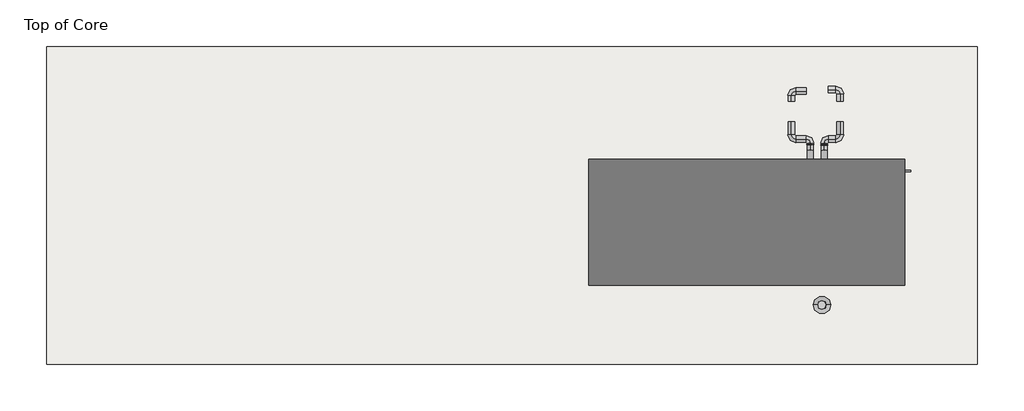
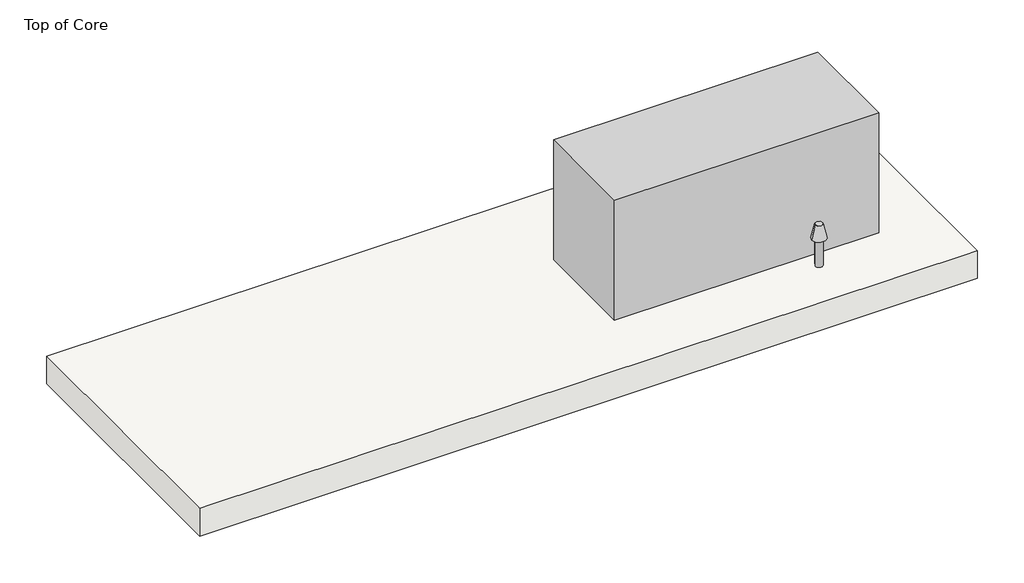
# One storey, incomplete: 12 pipe segments, 8 pipe fittings, 1 flow terminal, 1 proxy, 1 roof.
"""IFC4 building model written with IfcOpenShell, lengths in millimetres."""

from ifc_helpers import new_model, si_unit, point, frame, frame_2d, origin, place, context, project, spatial, polyline, circle_curve, trimmed, segment, composite_curve, outline, extrude, transform, mapped, element, save
from components import proxy_20_25_tons_50dc316f, vent_termination_vent_termination_79547288, pipe_elbow_standard_764eecca, pipe_straight_coupling_standard_a036b704

model = new_model("IFC4")

# Units and contexts
model_context = context("Model", 3, world=origin())
ifc_project = project(units=[si_unit("LENGTHUNIT", "METRE", prefix="MILLI")], contexts=[model_context])

# Site, building, storey
site = spatial("IfcSite", under=ifc_project)
building = spatial("IfcBuilding", under=site)
storey = spatial("IfcBuildingStorey", under=building, Name="Top of Core", Elevation=15849.6)

# Proxy
placement = place(None, origin())
proxy_20_25_tons_shape = proxy_20_25_tons_50dc316f(model_context)
element("IfcBuildingElementProxy", 1, Name="20-55 Tons Air Cooled Scroll Chiller : 20-25 Tons", ObjectType="20-55 Tons Air Cooled Scroll Chiller : 20-25 Tons", at=placement, inside=storey, context=model_context, shape_type="MappedRepresentation", body=[
    mapped(proxy_20_25_tons_shape, transform((2673.9890973, 9838.159643, 16154.4), x_axis=(-1.0, 0.0, 0.0), y_axis=(0.0, -1.0, 0.0), z_axis=(0.0, 0.0, 1.0))),
])

# Flow terminal
vent_termination_vent_termination_shape = vent_termination_vent_termination_79547288(model_context)
element("IfcFlowTerminal", 2, ObjectType="Vent Termination : Vent Termination", at=placement, inside=storey, context=model_context, shape_type="MappedRepresentation", body=[
    mapped(vent_termination_vent_termination_shape, transform((1956.0688796, 9666.27566, 16154.4), x_axis=(1.0, 0.0, 0.0), y_axis=(0.0, 1.0, 0.0), z_axis=(0.0, 0.0, 1.0))),
])

# Pipe fittings
pipe_elbow_standard_shape = pipe_elbow_standard_764eecca(model_context)
element("IfcPipeFitting", 3, ObjectType="Pipe Elbow1 : Standard 2", at=placement, inside=storey, context=model_context, shape_type="MappedRepresentation", body=[
    mapped(pipe_elbow_standard_shape, transform((1690.9854288, 11105.746643, 16297.275), x_axis=(0.0, -1.0, 0.0), y_axis=(1.0, 0.0, 0.0), z_axis=(0.0, 0.0, 1.0))),
])
element("IfcPipeFitting", 4, ObjectType="Pipe Elbow1 : Standard 2", at=placement, inside=storey, context=model_context, shape_type="MappedRepresentation", body=[
    mapped(pipe_elbow_standard_shape, transform((1854.8390973, 11105.746643, 16297.275), x_axis=(0.0, 1.0, 0.0), y_axis=(-1.0, 0.0, 0.0), z_axis=(0.0, 0.0, 1.0))),
])
element("IfcPipeFitting", 5, ObjectType="Pipe Elbow1 : Standard 2", at=placement, inside=storey, context=model_context, shape_type="MappedRepresentation", body=[
    mapped(pipe_elbow_standard_shape, transform((2113.6561347, 11105.746643, 16297.275), x_axis=(0.0, -1.0, 0.0), y_axis=(-1.0, 0.0, 0.0), z_axis=(0.0, 0.0, -1.0))),
])
element("IfcPipeFitting", 6, ObjectType="Pipe Elbow1 : Standard 2", at=placement, inside=storey, context=model_context, shape_type="MappedRepresentation", body=[
    mapped(pipe_elbow_standard_shape, transform((1975.4890973, 11105.746643, 16297.275), x_axis=(0.0, 1.0, 0.0), y_axis=(1.0, 0.0, 0.0), z_axis=(0.0, 0.0, -1.0))),
])
element("IfcPipeFitting", 7, ObjectType="Pipe Elbow1 : Standard 2", at=placement, inside=storey, context=model_context, shape_type="MappedRepresentation", body=[
    mapped(pipe_elbow_standard_shape, transform((1690.9854288, 11521.5729631, 16297.275), x_axis=(0.0, 1.0, 0.0), y_axis=(1.0, 0.0, 0.0), z_axis=(0.0, 0.0, -1.0))),
])
element("IfcPipeFitting", 8, ObjectType="Pipe Elbow1 : Standard 2", at=placement, inside=storey, context=model_context, shape_type="MappedRepresentation", body=[
    mapped(pipe_elbow_standard_shape, transform((2113.6561347, 11535.3697518, 16297.275), x_axis=(0.0, 1.0, 0.0), y_axis=(-1.0, 0.0, 0.0), z_axis=(0.0, 0.0, 1.0))),
])
pipe_straight_coupling_standard_shape = pipe_straight_coupling_standard_a036b704(model_context)
element("IfcPipeFitting", 9, ObjectType="Pipe Straight Coupling : Standard", at=placement, inside=storey, context=model_context, shape_type="MappedRepresentation", body=[
    mapped(pipe_straight_coupling_standard_shape, transform((1854.8390973, 11057.359643, 16297.275), x_axis=(0.0, 1.0, 0.0), y_axis=(-1.0, 0.0, 0.0), z_axis=(0.0, 0.0, 1.0))),
])
element("IfcPipeFitting", 10, ObjectType="Pipe Straight Coupling : Standard", at=placement, inside=storey, context=model_context, shape_type="MappedRepresentation", body=[
    mapped(pipe_straight_coupling_standard_shape, transform((1975.4890973, 11054.946643, 16297.275), x_axis=(0.0, -1.0, 0.0), y_axis=(1.0, 0.0, 0.0), z_axis=(0.0, 0.0, 1.0))),
])

# Pipe segments
element("IfcPipeSegment", 11, ObjectType="Standard", at=placement, inside=storey, context=model_context, shape_type="SweptSolid", body=[
    extrude(outline(composite_curve([segment(trimmed(circle_curve(frame_2d((16297.275, 1854.8390973)), 26.9875), [point((16297.275, 1827.8515973))], [point((16270.2875, 1854.8390973))], False, "CARTESIAN"), True, "CONTINUOUS"), segment(trimmed(circle_curve(frame_2d((16297.275, 1854.8390973)), 26.9875), [point((16270.2875, 1854.8390973))], [point((16297.275, 1881.8265973))], False, "CARTESIAN"), True, "CONTINUOUS"), segment(trimmed(circle_curve(frame_2d((16297.275, 1854.8390973)), 26.9875), [point((16297.275, 1881.8265973))], [point((16324.2625, 1854.8390973))], False, "CARTESIAN"), True, "CONTINUOUS"), segment(trimmed(circle_curve(frame_2d((16297.275, 1854.8390973)), 26.9875), [point((16324.2625, 1854.8390973))], [point((16297.275, 1827.8515973))], False, "CARTESIAN"), True, "CONTINUOUS")], self_intersect=False)), frame((0.0, 11006.559643, 0.0), z_axis=(0.0, 1.0, 0.0), x_axis=(0.0, 0.0, 1.0)), (0.0, 0.0, 1.0), 48.387),
])
element("IfcPipeSegment", 12, ObjectType="Standard", at=placement, inside=storey, context=model_context, shape_type="SweptSolid", body=[
    extrude(outline(composite_curve([segment(trimmed(circle_curve(frame_2d((16297.275, 1690.9854288)), 26.9875), [point((16297.275, 1663.9979288))], [point((16270.2875, 1690.9854288))], False, "CARTESIAN"), True, "CONTINUOUS"), segment(trimmed(circle_curve(frame_2d((16297.275, 1690.9854288)), 26.9875), [point((16270.2875, 1690.9854288))], [point((16297.275, 1717.9729288))], False, "CARTESIAN"), True, "CONTINUOUS"), segment(trimmed(circle_curve(frame_2d((16297.275, 1690.9854288)), 26.9875), [point((16297.275, 1717.9729288))], [point((16324.2625, 1690.9854288))], False, "CARTESIAN"), True, "CONTINUOUS"), segment(trimmed(circle_curve(frame_2d((16297.275, 1690.9854288)), 26.9875), [point((16324.2625, 1690.9854288))], [point((16297.275, 1663.9979288))], False, "CARTESIAN"), True, "CONTINUOUS")], self_intersect=False)), frame((0.0, 11142.259143, 0.0), z_axis=(0.0, 1.0, 0.0), x_axis=(0.0, 0.0, 1.0)), (0.0, 0.0, 1.0), 112.4398519),
])
element("IfcPipeSegment", 13, ObjectType="Standard", at=placement, inside=storey, context=model_context, shape_type="SweptSolid", body=[
    extrude(outline(composite_curve([segment(trimmed(circle_curve(frame_2d((16297.275, 1975.4890973)), 26.9875), [point((16297.275, 2002.4765973))], [point((16324.2625, 1975.4890973))], False, "CARTESIAN"), True, "CONTINUOUS"), segment(trimmed(circle_curve(frame_2d((16297.275, 1975.4890973)), 26.9875), [point((16324.2625, 1975.4890973))], [point((16297.275, 1948.5015973))], False, "CARTESIAN"), True, "CONTINUOUS"), segment(trimmed(circle_curve(frame_2d((16297.275, 1975.4890973)), 26.9875), [point((16297.275, 1948.5015973))], [point((16270.2875, 1975.4890973))], False, "CARTESIAN"), True, "CONTINUOUS"), segment(trimmed(circle_curve(frame_2d((16297.275, 1975.4890973)), 26.9875), [point((16270.2875, 1975.4890973))], [point((16297.275, 2002.4765973))], False, "CARTESIAN"), True, "CONTINUOUS")], self_intersect=False)), frame((0.0, 11057.359643, 0.0), z_axis=(0.0, 1.0, 0.0), x_axis=(0.0, 0.0, 1.0)), (0.0, 0.0, 1.0), 11.8745),
])
element("IfcPipeSegment", 14, ObjectType="Standard", at=placement, inside=storey, context=model_context, shape_type="SweptSolid", body=[
    extrude(outline(composite_curve([segment(trimmed(circle_curve(frame_2d((16297.275, 2113.6561347)), 26.9875), [point((16297.275, 2086.6686347))], [point((16270.2875, 2113.6561347))], False, "CARTESIAN"), True, "CONTINUOUS"), segment(trimmed(circle_curve(frame_2d((16297.275, 2113.6561347)), 26.9875), [point((16270.2875, 2113.6561347))], [point((16297.275, 2140.6436347))], False, "CARTESIAN"), True, "CONTINUOUS"), segment(trimmed(circle_curve(frame_2d((16297.275, 2113.6561347)), 26.9875), [point((16297.275, 2140.6436347))], [point((16324.2625, 2113.6561347))], False, "CARTESIAN"), True, "CONTINUOUS"), segment(trimmed(circle_curve(frame_2d((16297.275, 2113.6561347)), 26.9875), [point((16324.2625, 2113.6561347))], [point((16297.275, 2086.6686347))], False, "CARTESIAN"), True, "CONTINUOUS")], self_intersect=False)), frame((0.0, 11142.259143, 0.0), z_axis=(0.0, 1.0, 0.0), x_axis=(0.0, 0.0, 1.0)), (0.0, 0.0, 1.0), 112.4398519),
])
element("IfcPipeSegment", 15, ObjectType="Standard", at=placement, inside=storey, context=model_context, shape_type="SweptSolid", body=[
    extrude(outline(composite_curve([segment(trimmed(circle_curve(frame_2d((16297.275, 1854.8390973)), 26.9875), [point((16297.275, 1827.8515973))], [point((16270.2875, 1854.8390973))], False, "CARTESIAN"), True, "CONTINUOUS"), segment(trimmed(circle_curve(frame_2d((16297.275, 1854.8390973)), 26.9875), [point((16270.2875, 1854.8390973))], [point((16297.275, 1881.8265973))], False, "CARTESIAN"), True, "CONTINUOUS"), segment(trimmed(circle_curve(frame_2d((16297.275, 1854.8390973)), 26.9875), [point((16297.275, 1881.8265973))], [point((16324.2625, 1854.8390973))], False, "CARTESIAN"), True, "CONTINUOUS"), segment(trimmed(circle_curve(frame_2d((16297.275, 1854.8390973)), 26.9875), [point((16324.2625, 1854.8390973))], [point((16297.275, 1827.8515973))], False, "CARTESIAN"), True, "CONTINUOUS")], self_intersect=False)), frame((0.0, 11059.772643, 0.0), z_axis=(0.0, 1.0, 0.0), x_axis=(0.0, 0.0, 1.0)), (0.0, 0.0, 1.0), 9.4615),
])
element("IfcPipeSegment", 16, ObjectType="Standard", at=placement, inside=storey, context=model_context, shape_type="SweptSolid", body=[
    extrude(outline(composite_curve([segment(trimmed(circle_curve(frame_2d((16297.275, 1975.4890973)), 26.9875), [point((16297.275, 2002.4765973))], [point((16324.2625, 1975.4890973))], False, "CARTESIAN"), True, "CONTINUOUS"), segment(trimmed(circle_curve(frame_2d((16297.275, 1975.4890973)), 26.9875), [point((16324.2625, 1975.4890973))], [point((16297.275, 1948.5015973))], False, "CARTESIAN"), True, "CONTINUOUS"), segment(trimmed(circle_curve(frame_2d((16297.275, 1975.4890973)), 26.9875), [point((16297.275, 1948.5015973))], [point((16270.2875, 1975.4890973))], False, "CARTESIAN"), True, "CONTINUOUS"), segment(trimmed(circle_curve(frame_2d((16297.275, 1975.4890973)), 26.9875), [point((16270.2875, 1975.4890973))], [point((16297.275, 2002.4765973))], False, "CARTESIAN"), True, "CONTINUOUS")], self_intersect=False)), frame((0.0, 11006.559643, 0.0), z_axis=(0.0, 1.0, 0.0), x_axis=(0.0, 0.0, 1.0)), (0.0, 0.0, 1.0), 45.974),
])
element("IfcPipeSegment", 17, ObjectType="Standard", at=placement, inside=storey, context=model_context, shape_type="SweptSolid", body=[
    extrude(outline(composite_curve([segment(trimmed(circle_curve(frame_2d((16297.275, 1690.9854288)), 26.9875), [point((16297.275, 1717.9729288))], [point((16324.2625, 1690.9854288))], False, "CARTESIAN"), True, "CONTINUOUS"), segment(trimmed(circle_curve(frame_2d((16297.275, 1690.9854288)), 26.9875), [point((16324.2625, 1690.9854288))], [point((16297.275, 1663.9979288))], False, "CARTESIAN"), True, "CONTINUOUS"), segment(trimmed(circle_curve(frame_2d((16297.275, 1690.9854288)), 26.9875), [point((16297.275, 1663.9979288))], [point((16270.2875, 1690.9854288))], False, "CARTESIAN"), True, "CONTINUOUS"), segment(trimmed(circle_curve(frame_2d((16297.275, 1690.9854288)), 26.9875), [point((16270.2875, 1690.9854288))], [point((16297.275, 1717.9729288))], False, "CARTESIAN"), True, "CONTINUOUS")], self_intersect=False)), frame((0.0, 11432.4989949, 0.0), z_axis=(0.0, 1.0, 0.0), x_axis=(0.0, 0.0, 1.0)), (0.0, 0.0, 1.0), 52.5614683),
])
element("IfcPipeSegment", 18, ObjectType="Standard", at=placement, inside=storey, context=model_context, shape_type="SweptSolid", body=[
    extrude(outline(composite_curve([segment(trimmed(circle_curve(frame_2d((11105.746643, 16297.275)), 26.9875), [point((11078.759143, 16297.275))], [point((11105.746643, 16324.2625))], False, "CARTESIAN"), True, "CONTINUOUS"), segment(trimmed(circle_curve(frame_2d((11105.746643, 16297.275)), 26.9875), [point((11105.746643, 16324.2625))], [point((11132.734143, 16297.275))], False, "CARTESIAN"), True, "CONTINUOUS"), segment(trimmed(circle_curve(frame_2d((11105.746643, 16297.275)), 26.9875), [point((11132.734143, 16297.275))], [point((11105.746643, 16270.2875))], False, "CARTESIAN"), True, "CONTINUOUS"), segment(trimmed(circle_curve(frame_2d((11105.746643, 16297.275)), 26.9875), [point((11105.746643, 16270.2875))], [point((11078.759143, 16297.275))], False, "CARTESIAN"), True, "CONTINUOUS")], self_intersect=False)), frame((1727.4979288, 0.0, 0.0), z_axis=(1.0, 0.0, 0.0), x_axis=(0.0, 1.0, 0.0)), (0.0, 0.0, 1.0), 90.8286685),
])
element("IfcPipeSegment", 19, ObjectType="Standard", at=placement, inside=storey, context=model_context, shape_type="SweptSolid", body=[
    extrude(outline(composite_curve([segment(trimmed(circle_curve(frame_2d((11105.746643, 16297.275)), 26.9875), [point((11132.734143, 16297.275))], [point((11105.746643, 16270.2875))], False, "CARTESIAN"), True, "CONTINUOUS"), segment(trimmed(circle_curve(frame_2d((11105.746643, 16297.275)), 26.9875), [point((11105.746643, 16270.2875))], [point((11078.759143, 16297.275))], False, "CARTESIAN"), True, "CONTINUOUS"), segment(trimmed(circle_curve(frame_2d((11105.746643, 16297.275)), 26.9875), [point((11078.759143, 16297.275))], [point((11105.746643, 16324.2625))], False, "CARTESIAN"), True, "CONTINUOUS"), segment(trimmed(circle_curve(frame_2d((11105.746643, 16297.275)), 26.9875), [point((11105.746643, 16324.2625))], [point((11132.734143, 16297.275))], False, "CARTESIAN"), True, "CONTINUOUS")], self_intersect=False)), frame((2012.0015973, 0.0, 0.0), z_axis=(1.0, 0.0, 0.0), x_axis=(0.0, 1.0, 0.0)), (0.0, 0.0, 1.0), 65.1420374),
])
element("IfcPipeSegment", 20, ObjectType="Standard", at=placement, inside=storey, context=model_context, shape_type="SweptSolid", body=[
    extrude(outline(composite_curve([segment(trimmed(circle_curve(frame_2d((16297.275, 2113.6561347)), 26.9875), [point((16297.275, 2140.6436347))], [point((16324.2625, 2113.6561347))], False, "CARTESIAN"), True, "CONTINUOUS"), segment(trimmed(circle_curve(frame_2d((16297.275, 2113.6561347)), 26.9875), [point((16324.2625, 2113.6561347))], [point((16297.275, 2086.6686347))], False, "CARTESIAN"), True, "CONTINUOUS"), segment(trimmed(circle_curve(frame_2d((16297.275, 2113.6561347)), 26.9875), [point((16297.275, 2086.6686347))], [point((16270.2875, 2113.6561347))], False, "CARTESIAN"), True, "CONTINUOUS"), segment(trimmed(circle_curve(frame_2d((16297.275, 2113.6561347)), 26.9875), [point((16270.2875, 2113.6561347))], [point((16297.275, 2140.6436347))], False, "CARTESIAN"), True, "CONTINUOUS")], self_intersect=False)), frame((0.0, 11432.4989949, 0.0), z_axis=(0.0, 1.0, 0.0), x_axis=(0.0, 0.0, 1.0)), (0.0, 0.0, 1.0), 66.3582569),
])
element("IfcPipeSegment", 21, ObjectType="Standard", at=placement, inside=storey, context=model_context, shape_type="SweptSolid", body=[
    extrude(outline(composite_curve([segment(trimmed(circle_curve(frame_2d((11521.5729631, 16297.275)), 26.9875), [point((11494.5854631, 16297.275))], [point((11521.5729631, 16324.2625))], False, "CARTESIAN"), True, "CONTINUOUS"), segment(trimmed(circle_curve(frame_2d((11521.5729631, 16297.275)), 26.9875), [point((11521.5729631, 16324.2625))], [point((11548.5604631, 16297.275))], False, "CARTESIAN"), True, "CONTINUOUS"), segment(trimmed(circle_curve(frame_2d((11521.5729631, 16297.275)), 26.9875), [point((11548.5604631, 16297.275))], [point((11521.5729631, 16270.2875))], False, "CARTESIAN"), True, "CONTINUOUS"), segment(trimmed(circle_curve(frame_2d((11521.5729631, 16297.275)), 26.9875), [point((11521.5729631, 16270.2875))], [point((11494.5854631, 16297.275))], False, "CARTESIAN"), True, "CONTINUOUS")], self_intersect=False)), frame((1727.4979288, 0.0, 0.0), z_axis=(1.0, 0.0, 0.0), x_axis=(0.0, 1.0, 0.0)), (0.0, 0.0, 1.0), 94.0036685),
])
element("IfcPipeSegment", 22, ObjectType="Standard", at=placement, inside=storey, context=model_context, shape_type="SweptSolid", body=[
    extrude(outline(composite_curve([segment(trimmed(circle_curve(frame_2d((11535.3697518, 16297.275)), 26.9875), [point((11562.3572518, 16297.275))], [point((11535.3697518, 16270.2875))], False, "CARTESIAN"), True, "CONTINUOUS"), segment(trimmed(circle_curve(frame_2d((11535.3697518, 16297.275)), 26.9875), [point((11535.3697518, 16270.2875))], [point((11508.3822518, 16297.275))], False, "CARTESIAN"), True, "CONTINUOUS"), segment(trimmed(circle_curve(frame_2d((11535.3697518, 16297.275)), 26.9875), [point((11508.3822518, 16297.275))], [point((11535.3697518, 16324.2625))], False, "CARTESIAN"), True, "CONTINUOUS"), segment(trimmed(circle_curve(frame_2d((11535.3697518, 16297.275)), 26.9875), [point((11535.3697518, 16324.2625))], [point((11562.3572518, 16297.275))], False, "CARTESIAN"), True, "CONTINUOUS")], self_intersect=False)), frame((2008.8265973, 0.0, 0.0), z_axis=(1.0, 0.0, 0.0), x_axis=(0.0, 1.0, 0.0)), (0.0, 0.0, 1.0), 68.3170374),
])

# Roof
element("IfcRoof", 23, ObjectType="Generic - 12\"", at=placement, inside=storey, context=model_context, shape_type="SweptSolid", body=[
    extrude(outline(polyline([(-4771.8439612, 11908.259643), (3305.3560388, 11908.259643), (3305.3560388, 9152.359643), (-4771.8439612, 9152.359643), (-4771.8439612, 11908.259643)])), frame((0.0, 0.0, 15849.6), z_axis=(0.0, 0.0, 1.0), x_axis=(1.0, 0.0, 0.0)), (0.0, 0.0, 1.0), 304.8),
])

save(model, "model.ifc")
